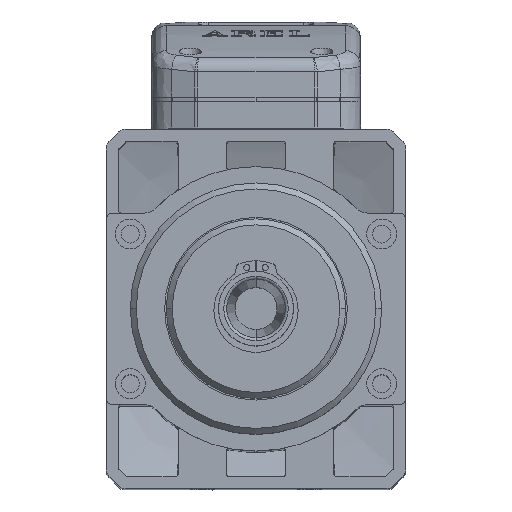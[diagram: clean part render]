
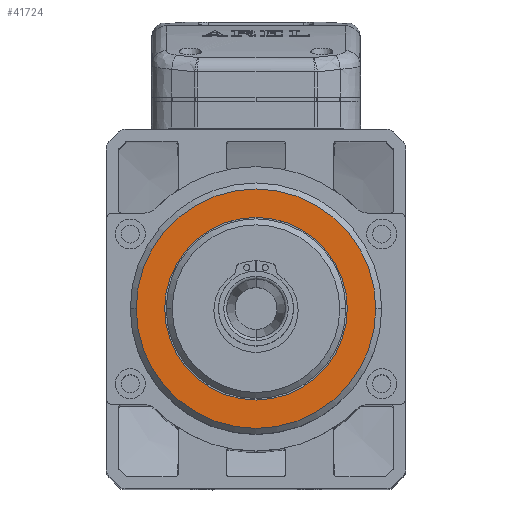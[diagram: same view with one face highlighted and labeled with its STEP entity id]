
A CAD part, top view. The second image highlights one B-rep face of the part: STEP entity #41724.
In plain terms, the highlighted planar face has unit normal (0, 0, 1).
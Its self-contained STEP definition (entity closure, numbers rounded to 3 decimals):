
#350 = DIRECTION ( 'NONE',  ( 0., 0., -1. ) ) ;
#435 = VERTEX_POINT ( 'NONE', #25308 ) ;
#1419 = CIRCLE ( 'NONE', #50366, 40. ) ;
#2896 = DIRECTION ( 'NONE',  ( 1., 0., 0. ) ) ;
#3880 = DIRECTION ( 'NONE',  ( 0., 0., 1. ) ) ;
#6063 = CARTESIAN_POINT ( 'NONE',  ( 0., 0., 0. ) ) ;
#6825 = ORIENTED_EDGE ( 'NONE', *, *, #46580, .T. ) ;
#7802 = DIRECTION ( 'NONE',  ( 1., 0., 0. ) ) ;
#8578 = DIRECTION ( 'NONE',  ( 0., 0., 1. ) ) ;
#9561 = CARTESIAN_POINT ( 'NONE',  ( 0., 0., 0. ) ) ;
#11157 = AXIS2_PLACEMENT_3D ( 'NONE', #28930, #23292, #17603 ) ;
#11699 = PLANE ( 'NONE',  #50931 ) ;
#12376 = ORIENTED_EDGE ( 'NONE', *, *, #30368, .F. ) ;
#12789 = ORIENTED_EDGE ( 'NONE', *, *, #45163, .F. ) ;
#13494 = DIRECTION ( 'NONE',  ( 0., 0., 1. ) ) ;
#17603 = DIRECTION ( 'NONE',  ( 1., 0., 0. ) ) ;
#19188 = CARTESIAN_POINT ( 'NONE',  ( 0., 0., 0. ) ) ;
#19801 = CARTESIAN_POINT ( 'NONE',  ( 40., 0., 0. ) ) ;
#19978 = CARTESIAN_POINT ( 'NONE',  ( 0., 0., 0. ) ) ;
#23292 = DIRECTION ( 'NONE',  ( 0., 0., 1. ) ) ;
#24354 = VERTEX_POINT ( 'NONE', #19801 ) ;
#25308 = CARTESIAN_POINT ( 'NONE',  ( -40., 0., 0. ) ) ;
#26550 = AXIS2_PLACEMENT_3D ( 'NONE', #19978, #8578, #2896 ) ;
#28930 = CARTESIAN_POINT ( 'NONE',  ( 0., 0., 0. ) ) ;
#30103 = CARTESIAN_POINT ( 'NONE',  ( 30.5, 0., 0. ) ) ;
#30368 = EDGE_CURVE ( 'NONE', #37337, #54101, #45371, .T. ) ;
#32972 = EDGE_LOOP ( 'NONE', ( #12789, #12376 ) ) ;
#36864 = AXIS2_PLACEMENT_3D ( 'NONE', #19188, #13494, #7802 ) ;
#36961 = CIRCLE ( 'NONE', #11157, 40. ) ;
#37337 = VERTEX_POINT ( 'NONE', #54003 ) ;
#40398 = EDGE_CURVE ( 'NONE', #435, #24354, #1419, .T. ) ;
#40906 = CIRCLE ( 'NONE', #26550, 30.5 ) ;
#41724 = ADVANCED_FACE ( 'NONE', ( #45206, #48092 ), #11699, .F. ) ;
#45163 = EDGE_CURVE ( 'NONE', #54101, #37337, #40906, .T. ) ;
#45206 = FACE_BOUND ( 'NONE', #32972, .T. ) ;
#45371 = CIRCLE ( 'NONE', #36864, 30.5 ) ;
#46580 = EDGE_CURVE ( 'NONE', #24354, #435, #36961, .T. ) ;
#46801 = ORIENTED_EDGE ( 'NONE', *, *, #40398, .T. ) ;
#48092 = FACE_OUTER_BOUND ( 'NONE', #53970, .T. ) ;
#50181 = DIRECTION ( 'NONE',  ( -1., 0., 0. ) ) ;
#50366 = AXIS2_PLACEMENT_3D ( 'NONE', #9561, #3880, #53708 ) ;
#50931 = AXIS2_PLACEMENT_3D ( 'NONE', #6063, #350, #50181 ) ;
#53708 = DIRECTION ( 'NONE',  ( 1., 0., 0. ) ) ;
#53970 = EDGE_LOOP ( 'NONE', ( #46801, #6825 ) ) ;
#54003 = CARTESIAN_POINT ( 'NONE',  ( -30.5, 0., 0. ) ) ;
#54101 = VERTEX_POINT ( 'NONE', #30103 ) ;
